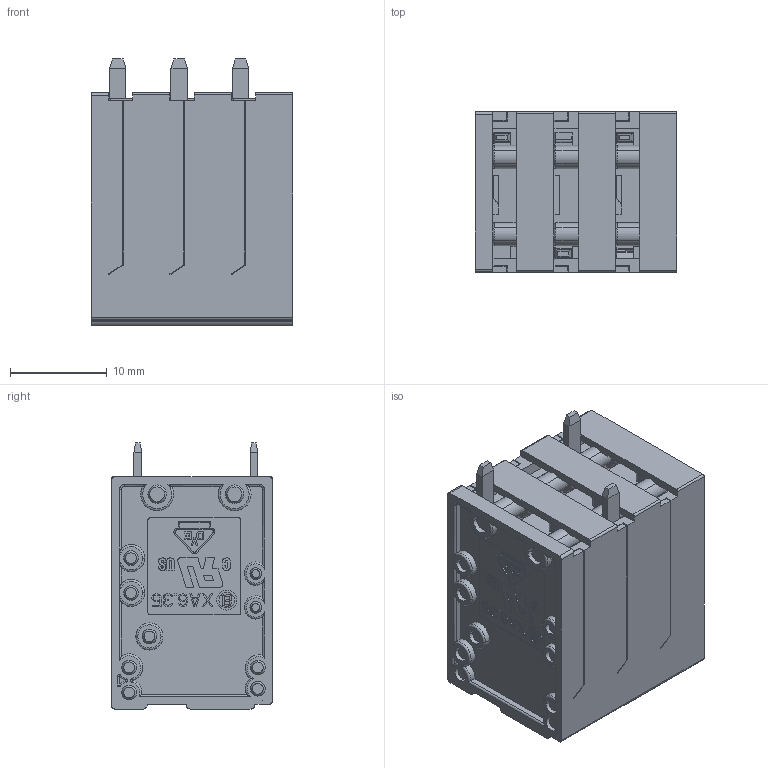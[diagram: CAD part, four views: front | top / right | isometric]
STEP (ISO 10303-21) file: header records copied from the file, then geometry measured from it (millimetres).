
FILE_DESCRIPTION((''),'2;1');
FILE_NAME('XA-6_35-2P_ASM','2022-06-28T',('renkang.li'),(''),'CREO PARAMETRIC BY PTC INC, 2016260','CREO PARAMETRIC BY PTC INC, 2016260','');
FILE_SCHEMA(('CONFIG_CONTROL_DESIGN'));
Products named in the file (1): XA-6_35-2P_ASM
Bounding box: 20.85 x 16.6 x 27.5 mm (x, y, z)
Volume: 5854.1 mm3; surface area: 8204.9 mm2
Topology: 1 solids, 60 shells, 2959 faces, 7752 edges, 4824 vertices
Faces by surface type: plane 1326, cylinder 893, cone 488, torus 206, bspline 45, extrusion 1
Entity records: 92678 total; most frequent: CARTESIAN_POINT 18292, DIRECTION 16060, ORIENTED_EDGE 15472, EDGE_CURVE 7736, AXIS2_PLACEMENT_3D 5701, VERTEX_POINT 4824, VECTOR 4658, LINE 4657
